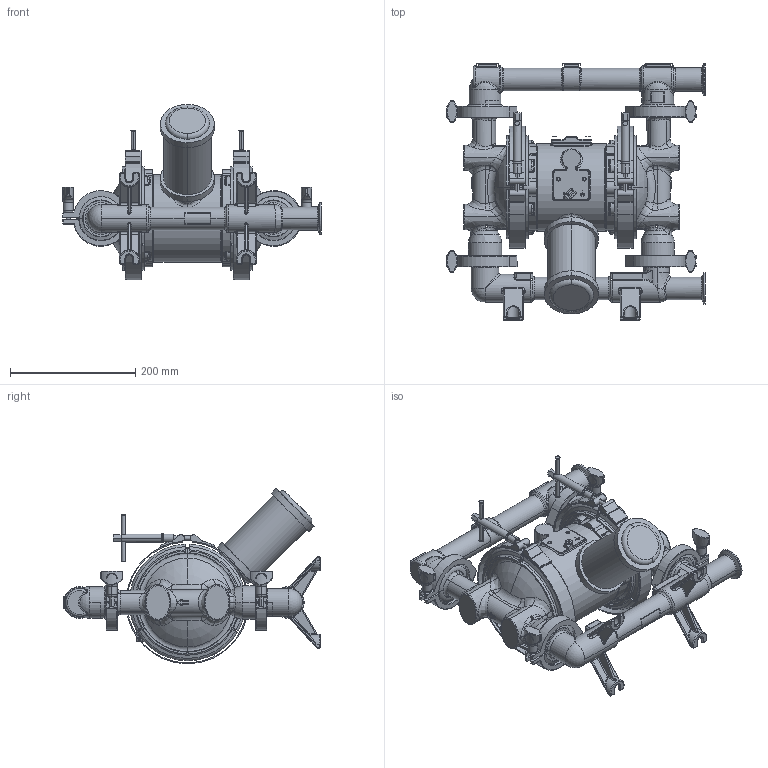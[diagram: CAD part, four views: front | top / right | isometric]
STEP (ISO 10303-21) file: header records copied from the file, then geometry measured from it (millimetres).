
FILE_DESCRIPTION((''),'2;1');
FILE_NAME('FD1111-EN-ZAK_PRT','2022-02-14T15:07:16',('qtmwp1'),(''),'CREO PARAMETRIC BY PTC INC, 2021072','CREO PARAMETRIC BY PTC INC, 2021072','');
FILE_SCHEMA(('CONFIG_CONTROL_DESIGN'));
Length unit declared in the file: inch
Products named in the file (1): FD1111-EN-ZAK_PRT
Bounding box: 413.12 x 409.22 x 279.53 mm (x, y, z)
Surface area: 859641.8 mm2 (no closed solid volume)
Topology: 0 solids, 109 shells, 1941 faces, 5823 edges, 3731 vertices
Faces by surface type: cylinder 643, plane 437, torus 403, bspline 346, cone 94, extrusion 10, sphere 8
Entity records: 90306 total; most frequent: CARTESIAN_POINT 42344, DIRECTION 9793, ORIENTED_EDGE 9493, EDGE_CURVE 5822, AXIS2_PLACEMENT_3D 4000, VERTEX_POINT 3731, CIRCLE 2405, EDGE_LOOP 1941
